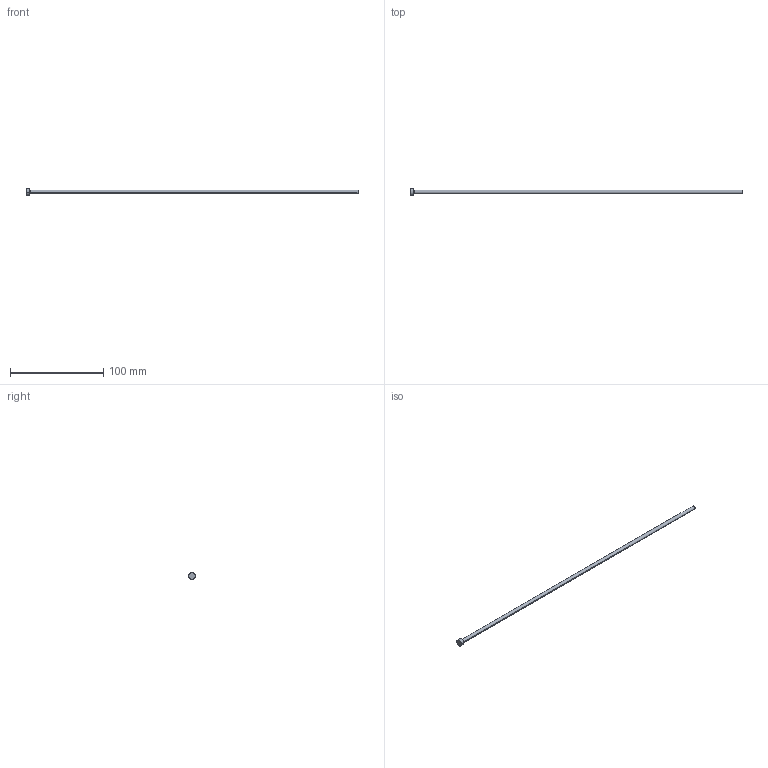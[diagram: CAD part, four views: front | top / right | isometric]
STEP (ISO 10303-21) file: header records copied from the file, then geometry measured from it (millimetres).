
FILE_DESCRIPTION (( 'STEP AP214' ), '1' );
FILE_NAME ('P11-14.STEP', '2020-03-11T17:45:20', ( '' ), ( '' ), 'SwSTEP 2.0', 'SolidWorks 2018', '' );
FILE_SCHEMA (( 'AUTOMOTIVE_DESIGN' ));
Length unit declared in the file: inch
Products named in the file (1): P11-14
Bounding box: 355.6 x 7.14 x 7.14 mm (x, y, z)
Volume: 4493.8 mm3; surface area: 4538.5 mm2
Topology: 1 solids, 1 shells, 13 faces, 24 edges, 14 vertices
Faces by surface type: cone 4, cylinder 4, plane 3, torus 2
Entity records: 366 total; most frequent: DIRECTION 68, CARTESIAN_POINT 52, ORIENTED_EDGE 48, AXIS2_PLACEMENT_3D 30, EDGE_CURVE 24, CIRCLE 16, EDGE_LOOP 14, VERTEX_POINT 14
